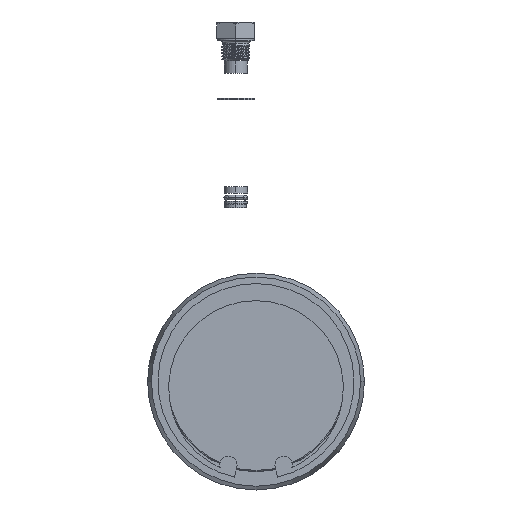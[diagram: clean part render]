
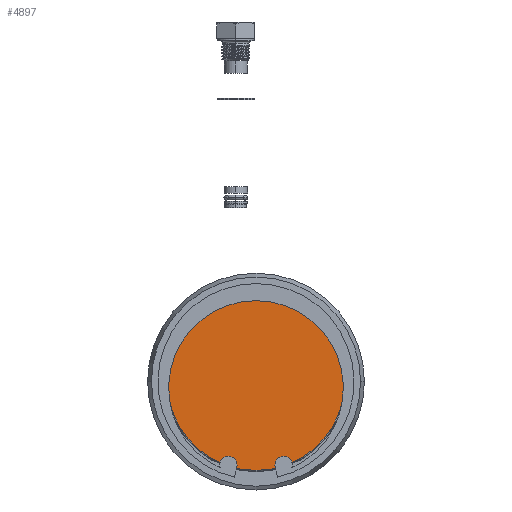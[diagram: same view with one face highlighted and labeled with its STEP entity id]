
A CAD part, left-side view. The second image highlights one B-rep face of the part: STEP entity #4897.
In plain terms, the highlighted planar face has unit normal (-1, 0, 0).
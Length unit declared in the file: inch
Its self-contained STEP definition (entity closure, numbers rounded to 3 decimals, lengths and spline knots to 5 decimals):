
#4744=CARTESIAN_POINT('',(-19.84996,0.,0.));
#4745=DIRECTION('',(-1.,0.,0.));
#4746=DIRECTION('',(0.,-1.,0.));
#4747=AXIS2_PLACEMENT_3D('',#4744,#4745,#4746);
#4759=CARTESIAN_POINT('',(-19.84996,0.,0.));
#4760=DIRECTION('',(-1.,0.,0.));
#4761=DIRECTION('',(0.,1.,0.));
#4762=AXIS2_PLACEMENT_3D('',#4759,#4760,#4761);
#4870=CARTESIAN_POINT('',(-19.84996,1.1705,0.));
#4871=CARTESIAN_POINT('',(-19.84996,-1.1705,0.));
#4872=VERTEX_POINT('',#4870);
#4873=VERTEX_POINT('',#4871);
#4886=CARTESIAN_POINT('',(-19.84996,0.,0.));
#4887=DIRECTION('',(1.,0.,0.));
#4888=DIRECTION('',(0.,1.,0.));
#4889=AXIS2_PLACEMENT_3D('',#4886,#4887,#4888);
#4890=PLANE('',#4889);
#4892=ORIENTED_EDGE('',*,*,#4891,.F.);
#4894=ORIENTED_EDGE('',*,*,#4893,.F.);
#4895=EDGE_LOOP('',(#4892,#4894));
#4896=FACE_OUTER_BOUND('',#4895,.F.);
#4897=ADVANCED_FACE('',(#4896),#4890,.F.);
#4748=CIRCLE('',#4747,1.1705);
#4763=CIRCLE('',#4762,1.1705);
#4891=EDGE_CURVE('',#4872,#4873,#4763,.T.);
#4893=EDGE_CURVE('',#4873,#4872,#4748,.T.);
